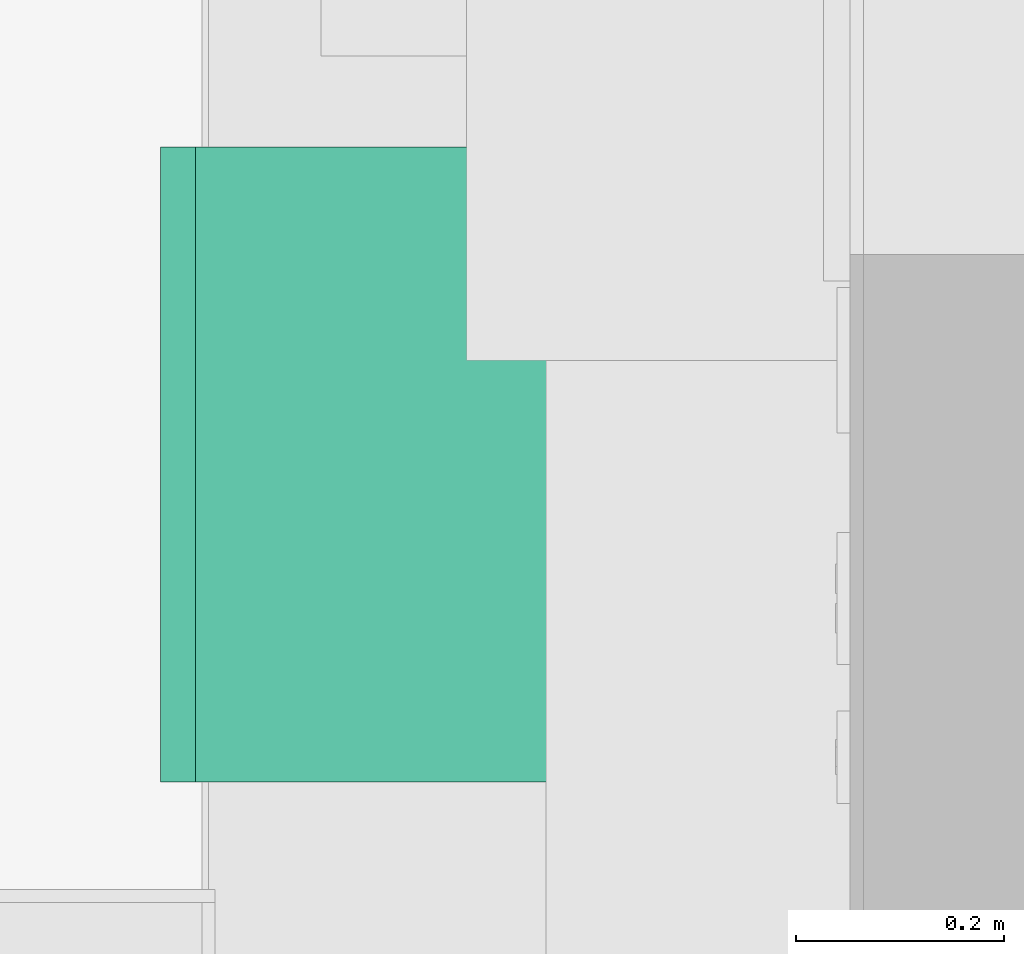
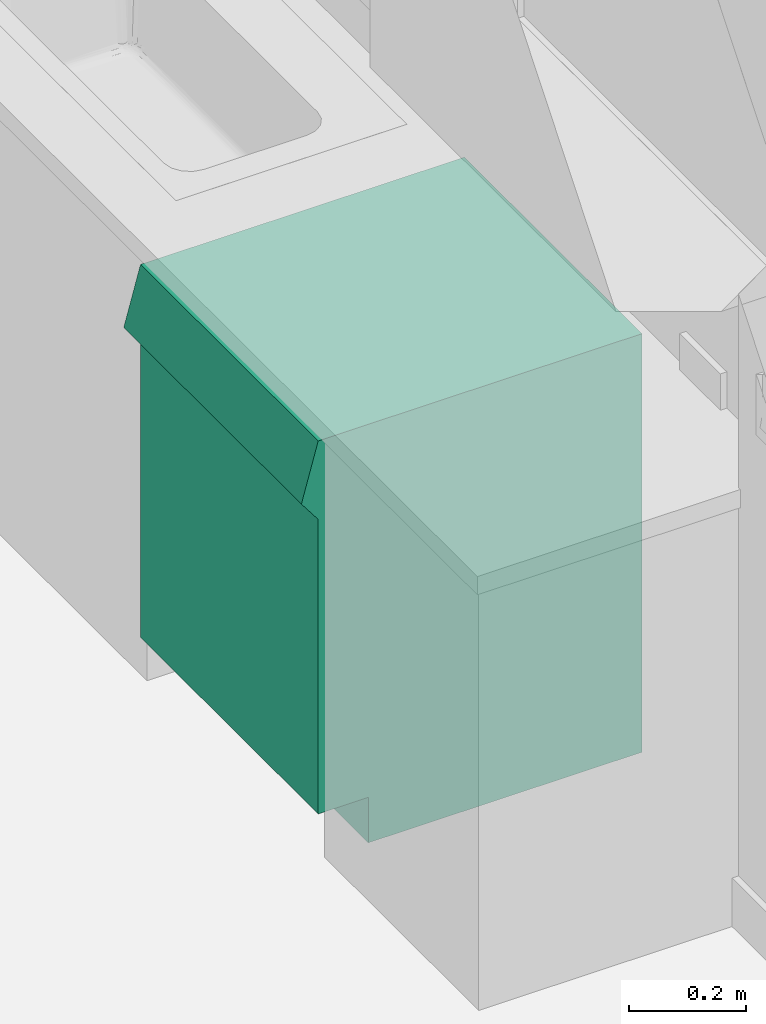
# One storey, part 34 of 60: 1 flow terminal.
"""IFC2X3 building model written with IfcOpenShell, lengths in feet."""

from ifc_helpers import new_model, entity, si_unit, converted_unit, direction, frame, frame_2d, origin, place, context, subcontext, project, spatial, polyline, rectangle, outline, extrude, source, transform, mapped, material, type_object, type_shapes, element, save


model = new_model("IFC2X3")

# Units and contexts
model_context = context("Model", 3, precision=0.0001, world=origin(), true_north=direction((6.123031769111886e-17, 1.0)))
plan_context = context("Plan", 3, precision=0.0001, world=origin(), true_north=direction((6.123031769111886e-17, 1.0)))
body_context = subcontext(model_context, "Body", "Model", "MODEL_VIEW")
ifc_project = project(units=[converted_unit("LENGTHUNIT", "FOOT", entity("IfcLengthMeasure", 0.3048), si_unit("LENGTHUNIT", "METRE"), dimensions=[1, 0, 0, 0, 0, 0, 0]), converted_unit("AREAUNIT", "SQUARE FOOT", entity("IfcAreaMeasure", 0.09290304), si_unit("AREAUNIT", "SQUARE_METRE"), dimensions=[2, 0, 0, 0, 0, 0, 0]), converted_unit("PLANEANGLEUNIT", "DEGREE", entity("IfcPlaneAngleMeasure", 0.017453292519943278), si_unit("PLANEANGLEUNIT", "RADIAN"), dimensions=[0, 0, 0, 0, 0, 0, 0])], contexts=[model_context, plan_context])

# Site, building, storey
site_placement = place(None, origin())
site = spatial("IfcSite", under=ifc_project, at=site_placement, Name="Default", CompositionType="ELEMENT")
building_placement = place(site_placement, origin())
building = spatial("IfcBuilding", under=site, at=building_placement, CompositionType="ELEMENT")
storey_placement = place(building_placement, origin())
storey = spatial("IfcBuildingStorey", under=building, at=storey_placement, Name="First floor", CompositionType="ELEMENT", Elevation=0.0)

# Flow terminal
ifc_material = material(Name="Default New Material")
distribution_element_type = type_object("IfcDistributionElementType", Name="C_Dishwasher:24\"x25 1/4\"", material=ifc_material)
shared_shape = source(origin(), body_context, "Body", "SweptSolid", [
    extrude(rectangle(XDim=1.9999999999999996, YDim=0.2161458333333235, at=frame_2d((0.0, -1.1102230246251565e-16), x_axis=(1.0, 0.0))), frame((1.9960937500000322, 0.0, 0.31249999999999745), z_axis=(0.0, 0.0, 1.0), x_axis=(0.0, 1.0, 0.0)), (0.0, 0.0, 1.0), 0.5651041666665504),
    extrude(rectangle(XDim=1.7786458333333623, YDim=1.9999999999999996, at=frame_2d((0.0, -1.6653345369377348e-15), x_axis=(1.0, 0.0))), frame((0.8893229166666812, 0.0, 0.0), z_axis=(0.0, 0.0, 1.0), x_axis=(-1.0, 0.0, 0.0)), (0.0, 0.0, 1.0), 2.8749999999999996),
    extrude(outline(polyline([(0.022666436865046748, -0.10905478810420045), (0.20288154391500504, -0.10905478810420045), (-0.22554798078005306, 0.2181095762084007), (0.022666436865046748, -0.10905478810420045)])), frame((2.140625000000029, -1.0, 2.563368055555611), z_axis=(0.0, 1.0, 0.0), x_axis=(-0.6069136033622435, 0.0, -0.7947678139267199)), (0.0, 0.0, 1.0), 1.9999999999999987),
    extrude(rectangle(XDim=1.9999999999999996, YDim=0.21614583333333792, at=frame_2d((0.0, -2.220446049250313e-16), x_axis=(1.0, 0.0))), frame((1.996093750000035, 0.0, 0.8776041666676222), z_axis=(0.0, 0.0, 1.0), x_axis=(0.0, 1.0, 0.0)), (0.0, 0.0, 1.0), 1.9973958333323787),
    extrude(rectangle(XDim=1.9999999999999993, YDim=0.10937500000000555, at=frame_2d((0.0, -1.1102230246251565e-16), x_axis=(1.0, 0.0))), frame((1.8333333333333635, 0.0, 0.3124999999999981), z_axis=(0.0, 0.0, 1.0), x_axis=(0.0, 1.0, 0.0)), (0.0, 0.0, 1.0), 2.562500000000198),
])
type_shapes(distribution_element_type, [shared_shape])
flow_terminal_placement = place(storey_placement, frame((12.916666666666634, 19.088196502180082, 10.666666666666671), z_axis=(0.0, 0.0, 1.0), x_axis=(-1.0, 0.0, 0.0)))
element("IfcFlowTerminal", 1, at=flow_terminal_placement, inside=storey, type_object=distribution_element_type, material=ifc_material, Name="C_Dishwasher:24\"x25 1/4\"", ObjectType="C_Dishwasher:24\"x25 1/4\"", context=body_context, shape_type="MappedRepresentation", body=[
    mapped(shared_shape, transform((0.0, 0.0, 0.0), scale=1.0)),
])

save(model, "model.ifc")
